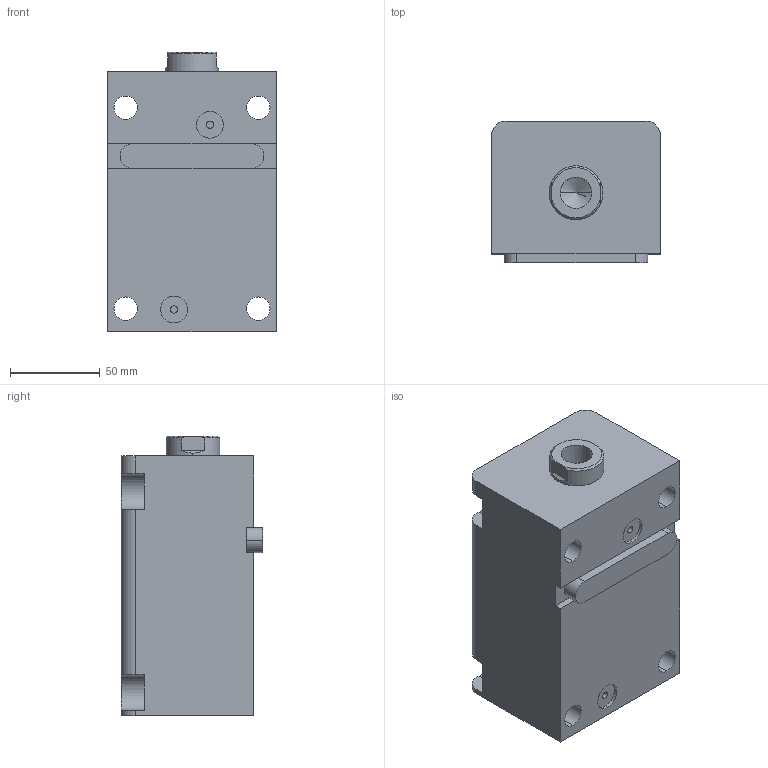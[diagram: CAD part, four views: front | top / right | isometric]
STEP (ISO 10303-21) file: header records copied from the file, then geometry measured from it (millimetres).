
FILE_DESCRIPTION (( 'STEP AP203' ), '1' );
FILE_NAME ('HTB-LAM50-85N.STEP', '2023-03-20T01:11:50', ( '微软用户' ), ( '微软中国' ), 'SwSTEP 2.0', 'SolidWorks 2012', '' );
FILE_SCHEMA (( 'CONFIG_CONTROL_DESIGN' ));
Length unit declared in the file: millimetre
Products named in the file (4): HTB-LAM50-85N; HTB-LWM50-瑩; HTB-LAM50-85N活塞杆; HTB-LAM50-85掛极
Assembly tree (3 placements, depth 2):
  HTB-LAM50-85N
    HTB-LAM50-85掛极
    HTB-LAM50-85N活塞杆
    HTB-LWM50-瑩
Bounding box: 94 x 79 x 156 mm (x, y, z)
Volume: 852392.6 mm3; surface area: 119170.7 mm2
Topology: 3 solids, 3 shells, 86 faces, 213 edges, 139 vertices
Faces by surface type: cylinder 39, plane 39, torus 4, cone 4
Entity records: 3001 total; most frequent: DIRECTION 475, CARTESIAN_POINT 470, ORIENTED_EDGE 422, EDGE_CURVE 211, AXIS2_PLACEMENT_3D 180, VERTEX_POINT 139, LINE 115, VECTOR 115
